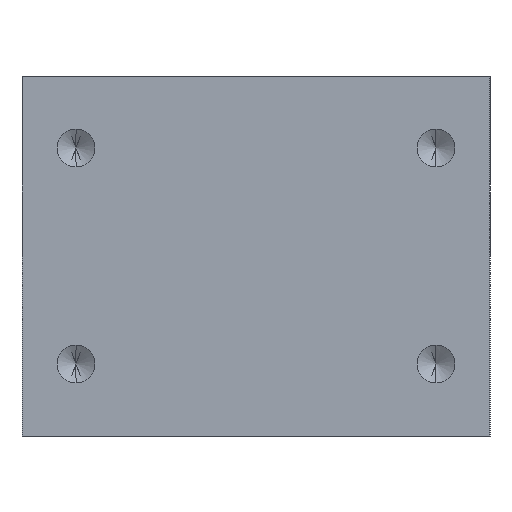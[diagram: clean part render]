
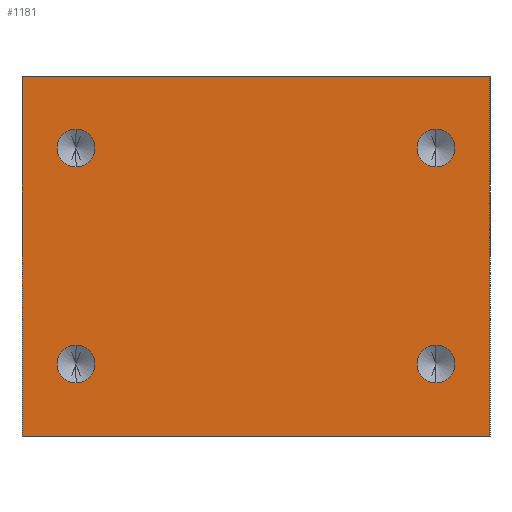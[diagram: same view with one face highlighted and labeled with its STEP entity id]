
A CAD part, front view. The second image highlights one B-rep face of the part: STEP entity #1181.
In plain terms, the highlighted planar face has unit normal (0, -1, 0).
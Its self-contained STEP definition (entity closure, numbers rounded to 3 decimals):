
#4 = CARTESIAN_POINT ( 'NONE',  ( -20., 0., 14.1 ) ) ;
#7 = VERTEX_POINT ( 'NONE', #1264 ) ;
#20 = VECTOR ( 'NONE', #602, 1000. ) ;
#32 = CARTESIAN_POINT ( 'NONE',  ( 20., 0., 12. ) ) ;
#38 = DIRECTION ( 'NONE',  ( 0., 0., -1. ) ) ;
#64 = CARTESIAN_POINT ( 'NONE',  ( 26., 0., 20. ) ) ;
#80 = CARTESIAN_POINT ( 'NONE',  ( -26., 0., -20. ) ) ;
#84 = EDGE_CURVE ( 'NONE', #1064, #1117, #622, .T. ) ;
#93 = EDGE_CURVE ( 'NONE', #427, #7, #1164, .T. ) ;
#107 = EDGE_LOOP ( 'NONE', ( #154, #136, #660, #1209 ) ) ;
#116 = FACE_BOUND ( 'NONE', #1030, .T. ) ;
#128 = DIRECTION ( 'NONE',  ( 0., 0., -1. ) ) ;
#132 = CARTESIAN_POINT ( 'NONE',  ( -20., 0., 12. ) ) ;
#136 = ORIENTED_EDGE ( 'NONE', *, *, #530, .F. ) ;
#139 = ORIENTED_EDGE ( 'NONE', *, *, #457, .F. ) ;
#146 = DIRECTION ( 'NONE',  ( 1., 0., 0. ) ) ;
#154 = ORIENTED_EDGE ( 'NONE', *, *, #1245, .F. ) ;
#159 = DIRECTION ( 'NONE',  ( 0., 0., -1. ) ) ;
#170 = VERTEX_POINT ( 'NONE', #400 ) ;
#171 = ORIENTED_EDGE ( 'NONE', *, *, #267, .F. ) ;
#175 = CARTESIAN_POINT ( 'NONE',  ( -20., 0., -12. ) ) ;
#176 = AXIS2_PLACEMENT_3D ( 'NONE', #983, #872, #537 ) ;
#180 = FACE_BOUND ( 'NONE', #1342, .T. ) ;
#260 = DIRECTION ( 'NONE',  ( 0., -1., 0. ) ) ;
#261 = CARTESIAN_POINT ( 'NONE',  ( 0., 0., 0. ) ) ;
#267 = EDGE_CURVE ( 'NONE', #609, #732, #963, .T. ) ;
#276 = CARTESIAN_POINT ( 'NONE',  ( 20., 0., 12. ) ) ;
#289 = CIRCLE ( 'NONE', #858, 2.1 ) ;
#313 = ORIENTED_EDGE ( 'NONE', *, *, #542, .F. ) ;
#334 = EDGE_CURVE ( 'NONE', #170, #1016, #674, .T. ) ;
#352 = CARTESIAN_POINT ( 'NONE',  ( -26., 0., 20. ) ) ;
#377 = DIRECTION ( 'NONE',  ( 0., 0., -1. ) ) ;
#379 = CARTESIAN_POINT ( 'NONE',  ( -26., 0., 20. ) ) ;
#381 = FACE_OUTER_BOUND ( 'NONE', #107, .T. ) ;
#386 = DIRECTION ( 'NONE',  ( 0., -1., 0. ) ) ;
#394 = DIRECTION ( 'NONE',  ( 0., 0., -1. ) ) ;
#400 = CARTESIAN_POINT ( 'NONE',  ( -20., 0., 9.9 ) ) ;
#401 = DIRECTION ( 'NONE',  ( 0., 0., -1. ) ) ;
#420 = FACE_BOUND ( 'NONE', #913, .T. ) ;
#424 = AXIS2_PLACEMENT_3D ( 'NONE', #132, #1231, #128 ) ;
#427 = VERTEX_POINT ( 'NONE', #1009 ) ;
#450 = CARTESIAN_POINT ( 'NONE',  ( -20., 0., 12. ) ) ;
#456 = ORIENTED_EDGE ( 'NONE', *, *, #681, .F. ) ;
#457 = EDGE_CURVE ( 'NONE', #494, #901, #1322, .T. ) ;
#468 = DIRECTION ( 'NONE',  ( 0., 0., -1. ) ) ;
#471 = PLANE ( 'NONE',  #1008 ) ;
#478 = ORIENTED_EDGE ( 'NONE', *, *, #1283, .F. ) ;
#494 = VERTEX_POINT ( 'NONE', #906 ) ;
#504 = DIRECTION ( 'NONE',  ( 0., -1., 0. ) ) ;
#507 = DIRECTION ( 'NONE',  ( 0., 0., -1. ) ) ;
#523 = AXIS2_PLACEMENT_3D ( 'NONE', #32, #582, #468 ) ;
#530 = EDGE_CURVE ( 'NONE', #646, #677, #1126, .T. ) ;
#537 = DIRECTION ( 'NONE',  ( 0., 0., -1. ) ) ;
#542 = EDGE_CURVE ( 'NONE', #7, #427, #809, .T. ) ;
#549 = VECTOR ( 'NONE', #146, 1000. ) ;
#582 = DIRECTION ( 'NONE',  ( 0., -1., 0. ) ) ;
#602 = DIRECTION ( 'NONE',  ( 0., 0., 1. ) ) ;
#606 = EDGE_LOOP ( 'NONE', ( #456, #139 ) ) ;
#609 = VERTEX_POINT ( 'NONE', #1042 ) ;
#614 = CARTESIAN_POINT ( 'NONE',  ( -26., 0., 20. ) ) ;
#616 = CARTESIAN_POINT ( 'NONE',  ( 20., 0., -12. ) ) ;
#622 = LINE ( 'NONE', #80, #1222 ) ;
#646 = VERTEX_POINT ( 'NONE', #379 ) ;
#660 = ORIENTED_EDGE ( 'NONE', *, *, #737, .F. ) ;
#674 = CIRCLE ( 'NONE', #424, 2.1 ) ;
#677 = VERTEX_POINT ( 'NONE', #64 ) ;
#681 = EDGE_CURVE ( 'NONE', #901, #494, #289, .T. ) ;
#692 = CARTESIAN_POINT ( 'NONE',  ( -20., 0., -12. ) ) ;
#714 = CARTESIAN_POINT ( 'NONE',  ( 26., 0., 20. ) ) ;
#732 = VERTEX_POINT ( 'NONE', #1268 ) ;
#737 = EDGE_CURVE ( 'NONE', #1117, #646, #894, .T. ) ;
#800 = ORIENTED_EDGE ( 'NONE', *, *, #1096, .F. ) ;
#809 = CIRCLE ( 'NONE', #1102, 2.1 ) ;
#856 = DIRECTION ( 'NONE',  ( 0., -1., 0. ) ) ;
#858 = AXIS2_PLACEMENT_3D ( 'NONE', #276, #386, #394 ) ;
#872 = DIRECTION ( 'NONE',  ( 0., -1., 0. ) ) ;
#874 = AXIS2_PLACEMENT_3D ( 'NONE', #175, #856, #507 ) ;
#894 = LINE ( 'NONE', #614, #20 ) ;
#901 = VERTEX_POINT ( 'NONE', #987 ) ;
#906 = CARTESIAN_POINT ( 'NONE',  ( 20., 0., 14.1 ) ) ;
#913 = EDGE_LOOP ( 'NONE', ( #478, #171 ) ) ;
#950 = ORIENTED_EDGE ( 'NONE', *, *, #93, .F. ) ;
#963 = CIRCLE ( 'NONE', #176, 2.1 ) ;
#976 = VECTOR ( 'NONE', #159, 1000. ) ;
#983 = CARTESIAN_POINT ( 'NONE',  ( 20., 0., -12. ) ) ;
#987 = CARTESIAN_POINT ( 'NONE',  ( 20., 0., 9.9 ) ) ;
#995 = LINE ( 'NONE', #714, #976 ) ;
#1008 = AXIS2_PLACEMENT_3D ( 'NONE', #261, #1029, #377 ) ;
#1009 = CARTESIAN_POINT ( 'NONE',  ( -20., 0., -14.1 ) ) ;
#1011 = CARTESIAN_POINT ( 'NONE',  ( 26., 0., -20. ) ) ;
#1016 = VERTEX_POINT ( 'NONE', #4 ) ;
#1024 = CIRCLE ( 'NONE', #1203, 2.1 ) ;
#1029 = DIRECTION ( 'NONE',  ( 0., -1., 0. ) ) ;
#1030 = EDGE_LOOP ( 'NONE', ( #1314, #800 ) ) ;
#1042 = CARTESIAN_POINT ( 'NONE',  ( 20., 0., -9.9 ) ) ;
#1064 = VERTEX_POINT ( 'NONE', #1011 ) ;
#1096 = EDGE_CURVE ( 'NONE', #1016, #170, #1024, .T. ) ;
#1102 = AXIS2_PLACEMENT_3D ( 'NONE', #692, #260, #38 ) ;
#1117 = VERTEX_POINT ( 'NONE', #1346 ) ;
#1122 = AXIS2_PLACEMENT_3D ( 'NONE', #616, #504, #401 ) ;
#1126 = LINE ( 'NONE', #352, #549 ) ;
#1164 = CIRCLE ( 'NONE', #874, 2.1 ) ;
#1181 = ADVANCED_FACE ( 'NONE', ( #116, #180, #1248, #420, #381 ), #471, .T. ) ;
#1203 = AXIS2_PLACEMENT_3D ( 'NONE', #450, #1228, #1331 ) ;
#1209 = ORIENTED_EDGE ( 'NONE', *, *, #84, .F. ) ;
#1218 = CIRCLE ( 'NONE', #1122, 2.1 ) ;
#1222 = VECTOR ( 'NONE', #1390, 1000. ) ;
#1228 = DIRECTION ( 'NONE',  ( 0., -1., 0. ) ) ;
#1231 = DIRECTION ( 'NONE',  ( 0., -1., 0. ) ) ;
#1245 = EDGE_CURVE ( 'NONE', #677, #1064, #995, .T. ) ;
#1248 = FACE_BOUND ( 'NONE', #606, .T. ) ;
#1264 = CARTESIAN_POINT ( 'NONE',  ( -20., 0., -9.9 ) ) ;
#1268 = CARTESIAN_POINT ( 'NONE',  ( 20., 0., -14.1 ) ) ;
#1283 = EDGE_CURVE ( 'NONE', #732, #609, #1218, .T. ) ;
#1314 = ORIENTED_EDGE ( 'NONE', *, *, #334, .F. ) ;
#1322 = CIRCLE ( 'NONE', #523, 2.1 ) ;
#1331 = DIRECTION ( 'NONE',  ( 0., 0., -1. ) ) ;
#1342 = EDGE_LOOP ( 'NONE', ( #950, #313 ) ) ;
#1346 = CARTESIAN_POINT ( 'NONE',  ( -26., 0., -20. ) ) ;
#1390 = DIRECTION ( 'NONE',  ( -1., 0., 0. ) ) ;
